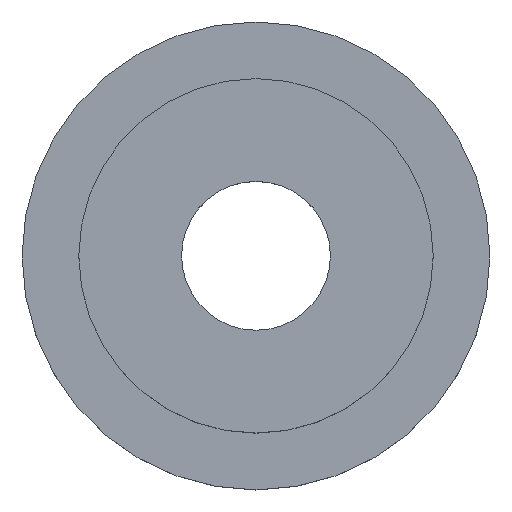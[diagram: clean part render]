
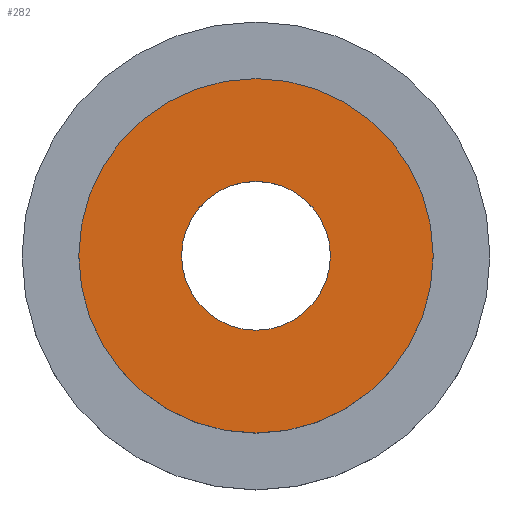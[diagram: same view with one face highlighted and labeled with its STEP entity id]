
A CAD part, top view. The second image highlights one B-rep face of the part: STEP entity #282.
In plain terms, the highlighted planar face has unit normal (0, 0, 1).
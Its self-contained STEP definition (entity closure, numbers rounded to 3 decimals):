
#4 = DIRECTION ( 'NONE',  ( 1., 0., 0. ) ) ;
#17 = EDGE_CURVE ( 'NONE', #254, #26, #160, .T. ) ;
#22 = CARTESIAN_POINT ( 'NONE',  ( 0., 0., 3.4 ) ) ;
#26 = VERTEX_POINT ( 'NONE', #200 ) ;
#27 = FACE_BOUND ( 'NONE', #343, .T. ) ;
#55 = DIRECTION ( 'NONE',  ( 1., 0., 0. ) ) ;
#83 = CARTESIAN_POINT ( 'NONE',  ( 0., 0., 3.4 ) ) ;
#84 = FACE_OUTER_BOUND ( 'NONE', #277, .T. ) ;
#86 = CARTESIAN_POINT ( 'NONE',  ( 0., 0., 3.4 ) ) ;
#99 = CARTESIAN_POINT ( 'NONE',  ( 5., 0., 3.4 ) ) ;
#105 = DIRECTION ( 'NONE',  ( 0., 0., 1. ) ) ;
#107 = DIRECTION ( 'NONE',  ( 0., 0., 1. ) ) ;
#110 = DIRECTION ( 'NONE',  ( 0., 0., 1. ) ) ;
#116 = AXIS2_PLACEMENT_3D ( 'NONE', #22, #105, #55 ) ;
#124 = ORIENTED_EDGE ( 'NONE', *, *, #309, .F. ) ;
#132 = AXIS2_PLACEMENT_3D ( 'NONE', #83, #107, #369 ) ;
#151 = DIRECTION ( 'NONE',  ( 1., 0., 0. ) ) ;
#154 = AXIS2_PLACEMENT_3D ( 'NONE', #86, #110, #169 ) ;
#155 = EDGE_CURVE ( 'NONE', #258, #363, #362, .T. ) ;
#160 = CIRCLE ( 'NONE', #154, 2.1 ) ;
#169 = DIRECTION ( 'NONE',  ( 1., 0., 0. ) ) ;
#187 = DIRECTION ( 'NONE',  ( 0., 0., 1. ) ) ;
#194 = CARTESIAN_POINT ( 'NONE',  ( -2.1, 0., 3.4 ) ) ;
#200 = CARTESIAN_POINT ( 'NONE',  ( 2.1, 0., 3.4 ) ) ;
#211 = ORIENTED_EDGE ( 'NONE', *, *, #155, .T. ) ;
#216 = ORIENTED_EDGE ( 'NONE', *, *, #352, .T. ) ;
#237 = AXIS2_PLACEMENT_3D ( 'NONE', #256, #187, #4 ) ;
#243 = AXIS2_PLACEMENT_3D ( 'NONE', #327, #324, #151 ) ;
#251 = CARTESIAN_POINT ( 'NONE',  ( -5., 0., 3.4 ) ) ;
#254 = VERTEX_POINT ( 'NONE', #194 ) ;
#256 = CARTESIAN_POINT ( 'NONE',  ( 0., 0., 3.4 ) ) ;
#258 = VERTEX_POINT ( 'NONE', #99 ) ;
#277 = EDGE_LOOP ( 'NONE', ( #216, #211 ) ) ;
#282 = ADVANCED_FACE ( 'NONE', ( #27, #84 ), #374, .T. ) ;
#307 = ORIENTED_EDGE ( 'NONE', *, *, #17, .F. ) ;
#309 = EDGE_CURVE ( 'NONE', #26, #254, #371, .T. ) ;
#324 = DIRECTION ( 'NONE',  ( 0., 0., 1. ) ) ;
#327 = CARTESIAN_POINT ( 'NONE',  ( 0., 0., 3.4 ) ) ;
#343 = EDGE_LOOP ( 'NONE', ( #307, #124 ) ) ;
#352 = EDGE_CURVE ( 'NONE', #363, #258, #356, .T. ) ;
#356 = CIRCLE ( 'NONE', #116, 5. ) ;
#362 = CIRCLE ( 'NONE', #243, 5. ) ;
#363 = VERTEX_POINT ( 'NONE', #251 ) ;
#369 = DIRECTION ( 'NONE',  ( 1., 0., 0. ) ) ;
#371 = CIRCLE ( 'NONE', #132, 2.1 ) ;
#374 = PLANE ( 'NONE',  #237 ) ;
